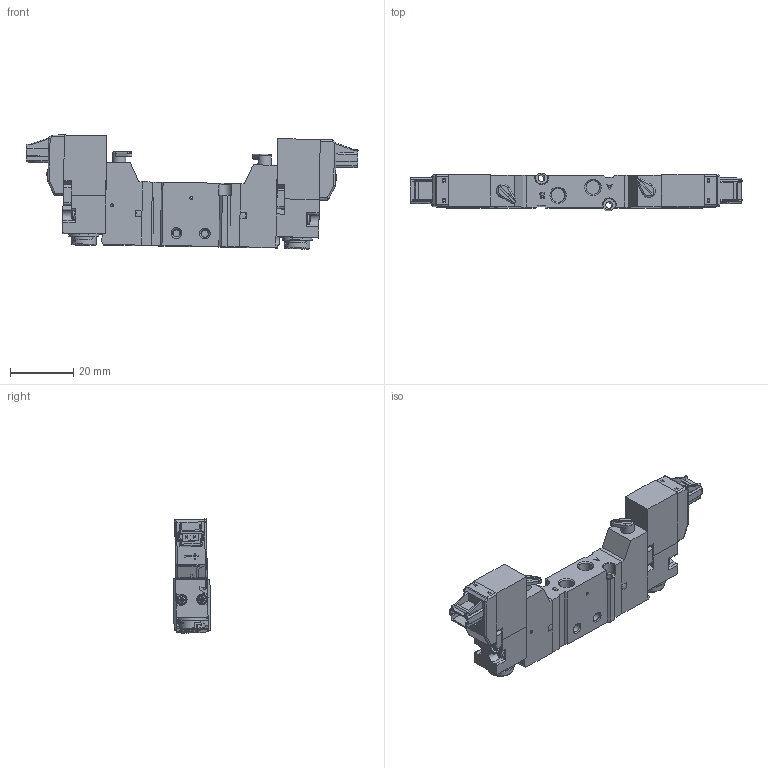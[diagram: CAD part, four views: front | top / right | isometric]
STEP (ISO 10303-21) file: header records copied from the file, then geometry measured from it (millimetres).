
FILE_DESCRIPTION((''),'2;1');
FILE_NAME('W:\技術グループ\Winovation\Winovation Projects\ADEX Valve in-line\ADEX Plus 3D CAD\P2A05RS\P2A05RD25-1P-M5_配布元データ_Shrinkwrap_1.stp','2014-09-24T16:49:30',('HM161442'),(''),'Autodesk Inventor 2013','Autodesk Inventor 2013','');
FILE_SCHEMA(('AUTOMOTIVE_DESIGN { 1 0 10303 214 1 1 1 1 }'));
Length unit declared in the file: millimetre
Products named in the file (1): P2A05RD25-1P-M5_配布元データ_Shrinkwrap_1
Bounding box: 104.97 x 11.89 x 36.06 mm (x, y, z)
Volume: 20315.3 mm3; surface area: 12070 mm2
Topology: 1 solids, 1 shells, 1546 faces, 4059 edges, 2540 vertices
Faces by surface type: plane 911, cylinder 319, bspline 106, cone 85, torus 66, sphere 59
Full cylindrical faces by diameter (mm): 1 x9, 1.5 x2, 1.6 x2, 2.1 x2, 2.7 x4, 2.8 x2, 3.5 x8, 4.2 x2, 4.4 x7, 4.5 x2, 8 x2, 8.1 x2
Entity records: 52719 total; most frequent: CARTESIAN_POINT 14619, ORIENTED_EDGE 7708, DIRECTION 7343, EDGE_CURVE 3854, AXIS2_PLACEMENT_3D 2507, VERTEX_POINT 2465, VECTOR 2329, LINE 2329
